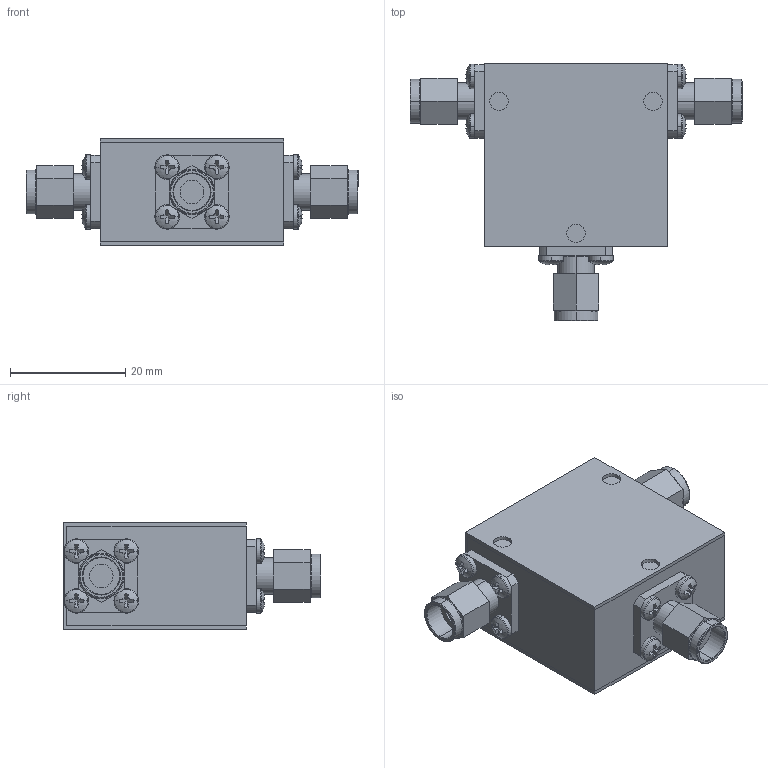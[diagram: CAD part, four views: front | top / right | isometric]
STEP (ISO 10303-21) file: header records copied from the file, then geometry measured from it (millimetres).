
FILE_DESCRIPTION (( 'STEP AP214' ), '1' );
FILE_NAME ('Package 8 Circ MMM.step', '2021-12-01T21:02:11', ( '' ), ( '' ), 'SwSTEP 2.0', 'SolidWorks 2016', '' );
FILE_SCHEMA (( 'AUTOMOTIVE_DESIGN' ));
Length unit declared in the file: inch
Products named in the file (5): pan cross head_ai_CR-PHMS 0.086-56x0.125x0.125-N; Package 8 Circ MMM; Delta SMA-Male; Package 8; Package Size 8
Assembly tree (17 placements, depth 2):
  Package 8 Circ MMM
    Package Size 8
    Package 8
    pan cross head_ai_CR-PHMS 0.086-56x0.125x0.125-N  x12
    Delta SMA-Male  x3
Bounding box: 57.51 x 44.63 x 18.54 mm (x, y, z)
Volume: 20552.3 mm3; surface area: 12858.7 mm2
Topology: 17 solids, 17 shells, 445 faces, 1014 edges, 624 vertices
Faces by surface type: plane 259, cylinder 120, torus 42, sphere 24
Entity records: 3248 total; most frequent: DIRECTION 584, CARTESIAN_POINT 504, ORIENTED_EDGE 472, EDGE_CURVE 236, AXIS2_PLACEMENT_3D 230, VERTEX_POINT 150, LINE 124, EDGE_LOOP 124
